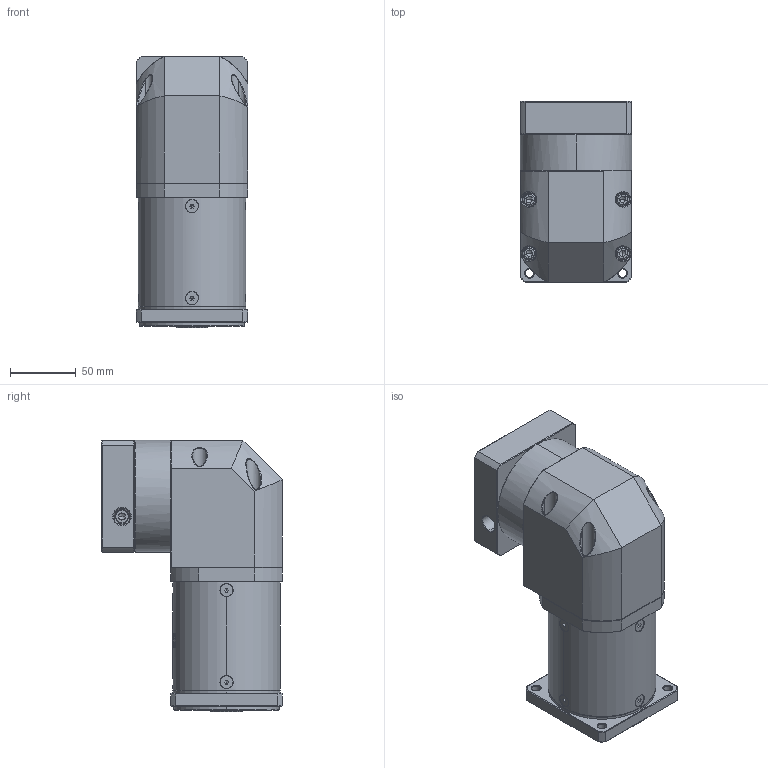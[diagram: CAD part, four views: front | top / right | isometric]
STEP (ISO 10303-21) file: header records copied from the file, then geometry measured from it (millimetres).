
FILE_DESCRIPTION (( 'STEP AP214' ), '1' );
FILE_NAME ('ZFR080-K15-L3-P2-16-80-100-M6.step', '2023-08-25T03:58:08', ( '' ), ( '' ), 'SwSTEP 2.0', 'SolidWorks 2016', '' );
FILE_SCHEMA (( 'AUTOMOTIVE_DESIGN' ));
Length unit declared in the file: millimetre
Products named in the file (1): ZFR080-K15-L3-P2-16-80-100-M6
Bounding box: 85 x 137.6 x 206.5 mm (x, y, z)
Volume: 1442763.5 mm3; surface area: 144156.9 mm2
Topology: 13 solids, 13 shells, 2408 faces, 6209 edges, 3908 vertices
Faces by surface type: plane 1187, cylinder 417, bspline 414, cone 358, torus 32
Entity records: 124868 total; most frequent: CARTESIAN_POINT 44890, ORIENTED_EDGE 12330, DIRECTION 9393, EDGE_CURVE 6165, VERTEX_POINT 3908, LINE 3339, VECTOR 3339, AXIS2_PLACEMENT_3D 3027
